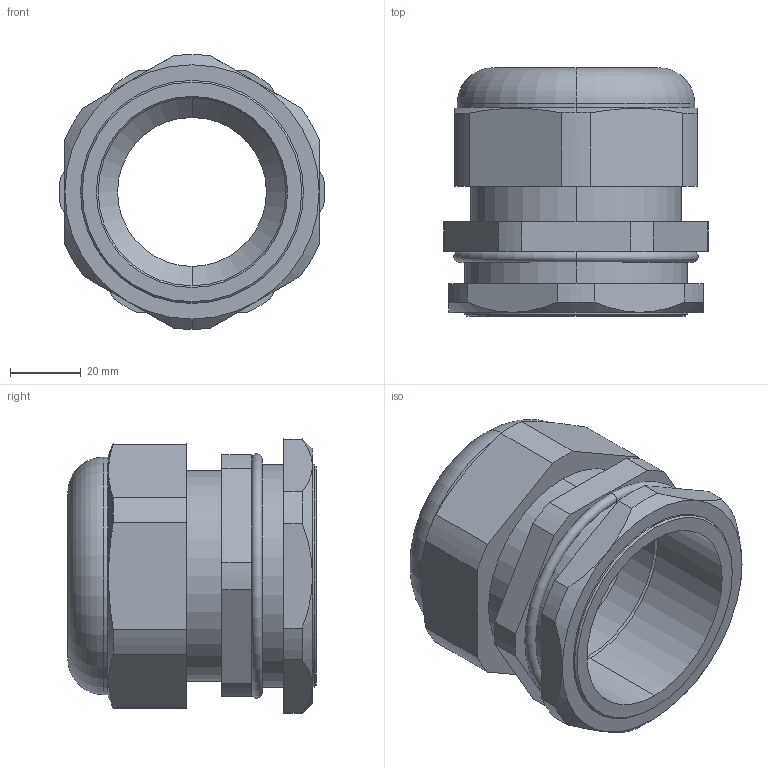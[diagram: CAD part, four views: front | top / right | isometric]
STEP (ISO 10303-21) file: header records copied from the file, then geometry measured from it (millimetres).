
FILE_DESCRIPTION (( 'STEP AP203' ), '1' );
FILE_NAME ('CH-M63.STEP', '2018-02-07T14:42:19', ( '' ), ( '' ), 'SwSTEP 2.0', 'SolidWorks 2012', '' );
FILE_SCHEMA (( 'CONFIG_CONTROL_DESIGN' ));
Length unit declared in the file: millimetre
Products named in the file (1): CH-M63
Bounding box: 74.71 x 70 x 77.46 mm (x, y, z)
Volume: 120298.4 mm3; surface area: 34926.3 mm2
Topology: 1 solids, 1 shells, 82 faces, 197 edges, 122 vertices
Faces by surface type: cylinder 36, plane 25, cone 17, torus 4
Entity records: 2586 total; most frequent: CARTESIAN_POINT 556, DIRECTION 435, ORIENTED_EDGE 394, EDGE_CURVE 197, AXIS2_PLACEMENT_3D 173, VERTEX_POINT 122, CIRCLE 90, LINE 89
